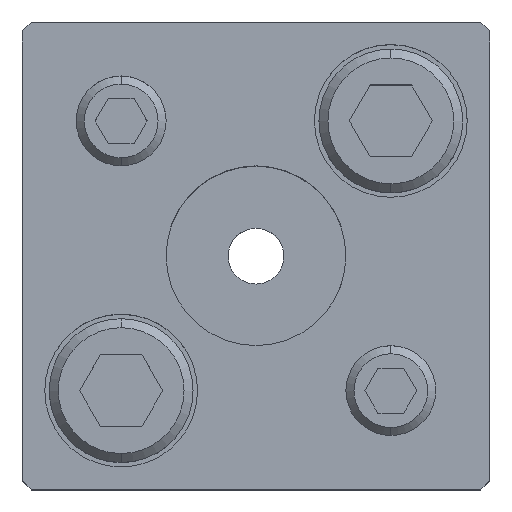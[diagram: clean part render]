
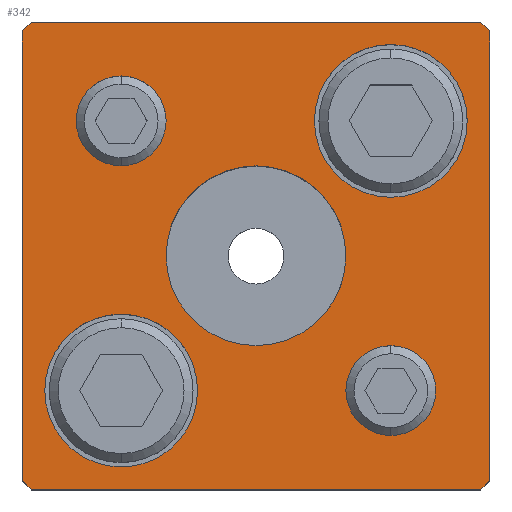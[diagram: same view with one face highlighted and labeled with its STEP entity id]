
A CAD part, top view. The second image highlights one B-rep face of the part: STEP entity #342.
In plain terms, the highlighted planar face has unit normal (0, 0, 1).
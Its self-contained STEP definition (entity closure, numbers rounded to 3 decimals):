
#167=PLANE('',#2883);
#246=FACE_BOUND('',#713,.T.);
#247=FACE_BOUND('',#714,.T.);
#248=FACE_BOUND('',#715,.T.);
#249=FACE_BOUND('',#716,.T.);
#250=FACE_BOUND('',#717,.T.);
#251=FACE_BOUND('',#718,.T.);
#342=ADVANCED_FACE('',(#246,#247,#248,#249,#250,#251),#167,.T.);
#713=EDGE_LOOP('',(#1569,#1570,#1571,#1572,#1573,#1574,#1575,#1576));
#714=EDGE_LOOP('',(#1577,#1578));
#715=EDGE_LOOP('',(#1579,#1580));
#716=EDGE_LOOP('',(#1581,#1582));
#717=EDGE_LOOP('',(#1583,#1584));
#718=EDGE_LOOP('',(#1585,#1586));
#898=LINE('',#4225,#1118);
#899=LINE('',#4228,#1119);
#900=LINE('',#4230,#1120);
#901=LINE('',#4232,#1121);
#902=LINE('',#4234,#1122);
#903=LINE('',#4236,#1123);
#904=LINE('',#4238,#1124);
#905=LINE('',#4240,#1125);
#1118=VECTOR('',#3401,1.);
#1119=VECTOR('',#3402,1.);
#1120=VECTOR('',#3403,1.);
#1121=VECTOR('',#3404,1.);
#1122=VECTOR('',#3405,1.);
#1123=VECTOR('',#3406,1.);
#1124=VECTOR('',#3407,1.);
#1125=VECTOR('',#3408,1.);
#1569=ORIENTED_EDGE('',*,*,#2390,.T.);
#1570=ORIENTED_EDGE('',*,*,#2391,.T.);
#1571=ORIENTED_EDGE('',*,*,#2392,.T.);
#1572=ORIENTED_EDGE('',*,*,#2393,.T.);
#1573=ORIENTED_EDGE('',*,*,#2394,.T.);
#1574=ORIENTED_EDGE('',*,*,#2395,.T.);
#1575=ORIENTED_EDGE('',*,*,#2396,.T.);
#1576=ORIENTED_EDGE('',*,*,#2397,.T.);
#1577=ORIENTED_EDGE('',*,*,#2398,.F.);
#1578=ORIENTED_EDGE('',*,*,#2399,.F.);
#1579=ORIENTED_EDGE('',*,*,#2400,.F.);
#1580=ORIENTED_EDGE('',*,*,#2401,.F.);
#1581=ORIENTED_EDGE('',*,*,#2376,.F.);
#1582=ORIENTED_EDGE('',*,*,#2372,.F.);
#1583=ORIENTED_EDGE('',*,*,#2370,.F.);
#1584=ORIENTED_EDGE('',*,*,#2366,.F.);
#1585=ORIENTED_EDGE('',*,*,#2402,.T.);
#1586=ORIENTED_EDGE('',*,*,#2403,.T.);
#2083=VERTEX_POINT('',#4176);
#2084=VERTEX_POINT('',#4177);
#2087=VERTEX_POINT('',#4189);
#2088=VERTEX_POINT('',#4190);
#2099=VERTEX_POINT('',#4226);
#2100=VERTEX_POINT('',#4227);
#2101=VERTEX_POINT('',#4229);
#2102=VERTEX_POINT('',#4231);
#2103=VERTEX_POINT('',#4233);
#2104=VERTEX_POINT('',#4235);
#2105=VERTEX_POINT('',#4237);
#2106=VERTEX_POINT('',#4239);
#2107=VERTEX_POINT('',#4242);
#2108=VERTEX_POINT('',#4243);
#2109=VERTEX_POINT('',#4246);
#2110=VERTEX_POINT('',#4247);
#2111=VERTEX_POINT('',#4250);
#2112=VERTEX_POINT('',#4251);
#2366=EDGE_CURVE('',#2083,#2084,#2655,.T.);
#2370=EDGE_CURVE('',#2084,#2083,#2657,.T.);
#2372=EDGE_CURVE('',#2087,#2088,#2659,.T.);
#2376=EDGE_CURVE('',#2088,#2087,#2661,.T.);
#2390=EDGE_CURVE('',#2099,#2100,#898,.T.);
#2391=EDGE_CURVE('',#2100,#2101,#899,.T.);
#2392=EDGE_CURVE('',#2101,#2102,#900,.T.);
#2393=EDGE_CURVE('',#2102,#2103,#901,.T.);
#2394=EDGE_CURVE('',#2103,#2104,#902,.T.);
#2395=EDGE_CURVE('',#2104,#2105,#903,.T.);
#2396=EDGE_CURVE('',#2105,#2106,#904,.T.);
#2397=EDGE_CURVE('',#2106,#2099,#905,.T.);
#2398=EDGE_CURVE('',#2107,#2108,#2671,.T.);
#2399=EDGE_CURVE('',#2108,#2107,#2672,.T.);
#2400=EDGE_CURVE('',#2109,#2110,#2673,.T.);
#2401=EDGE_CURVE('',#2110,#2109,#2674,.T.);
#2402=EDGE_CURVE('',#2111,#2112,#2675,.T.);
#2403=EDGE_CURVE('',#2112,#2111,#2676,.T.);
#2655=CIRCLE('',#2851,5.);
#2657=CIRCLE('',#2854,5.);
#2659=CIRCLE('',#2858,5.);
#2661=CIRCLE('',#2861,5.);
#2671=CIRCLE('',#2877,8.5);
#2672=CIRCLE('',#2878,8.5);
#2673=CIRCLE('',#2879,8.5);
#2674=CIRCLE('',#2880,8.5);
#2675=CIRCLE('',#2881,10.);
#2676=CIRCLE('',#2882,10.);
#2851=AXIS2_PLACEMENT_3D('',#4175,#3341,#3342);
#2854=AXIS2_PLACEMENT_3D('',#4184,#3349,#3350);
#2858=AXIS2_PLACEMENT_3D('',#4188,#3357,#3358);
#2861=AXIS2_PLACEMENT_3D('',#4197,#3365,#3366);
#2877=AXIS2_PLACEMENT_3D('',#4241,#3409,#3410);
#2878=AXIS2_PLACEMENT_3D('',#4244,#3411,#3412);
#2879=AXIS2_PLACEMENT_3D('',#4245,#3413,#3414);
#2880=AXIS2_PLACEMENT_3D('',#4248,#3415,#3416);
#2881=AXIS2_PLACEMENT_3D('',#4249,#3417,#3418);
#2882=AXIS2_PLACEMENT_3D('',#4252,#3419,#3420);
#2883=AXIS2_PLACEMENT_3D('',#4253,#3421,#3422);
#3341=DIRECTION('',(0.,0.,1.));
#3342=DIRECTION('',(-1.,0.,0.));
#3349=DIRECTION('',(0.,0.,1.));
#3350=DIRECTION('',(1.,0.,0.));
#3357=DIRECTION('',(0.,0.,1.));
#3358=DIRECTION('',(-1.,0.,0.));
#3365=DIRECTION('',(0.,0.,1.));
#3366=DIRECTION('',(1.,0.,0.));
#3401=DIRECTION('',(0.707,0.707,0.));
#3402=DIRECTION('',(0.,1.,0.));
#3403=DIRECTION('',(-0.707,0.707,0.));
#3404=DIRECTION('',(-1.,0.,0.));
#3405=DIRECTION('',(-0.707,-0.707,0.));
#3406=DIRECTION('',(0.,-1.,0.));
#3407=DIRECTION('',(0.707,-0.707,0.));
#3408=DIRECTION('',(1.,0.,0.));
#3409=DIRECTION('',(0.,0.,1.));
#3410=DIRECTION('',(1.,0.,0.));
#3411=DIRECTION('',(0.,0.,1.));
#3412=DIRECTION('',(-1.,0.,0.));
#3413=DIRECTION('',(0.,0.,1.));
#3414=DIRECTION('',(1.,0.,0.));
#3415=DIRECTION('',(0.,0.,1.));
#3416=DIRECTION('',(-1.,0.,0.));
#3417=DIRECTION('',(0.,0.,-1.));
#3418=DIRECTION('',(-1.,0.,0.));
#3419=DIRECTION('',(0.,0.,-1.));
#3420=DIRECTION('',(1.,0.,0.));
#3421=DIRECTION('',(0.,0.,1.));
#3422=DIRECTION('',(-1.,0.,0.));
#4175=CARTESIAN_POINT('',(15.,-15.,35.));
#4176=CARTESIAN_POINT('',(15.,-20.,35.));
#4177=CARTESIAN_POINT('',(15.,-10.,35.));
#4184=CARTESIAN_POINT('',(15.,-15.,35.));
#4188=CARTESIAN_POINT('',(-15.,15.,35.));
#4189=CARTESIAN_POINT('',(-15.,10.,35.));
#4190=CARTESIAN_POINT('',(-15.,20.,35.));
#4197=CARTESIAN_POINT('',(-15.,15.,35.));
#4225=CARTESIAN_POINT('',(25.,-26.,35.));
#4226=CARTESIAN_POINT('',(25.,-26.,35.));
#4227=CARTESIAN_POINT('',(26.,-25.,35.));
#4228=CARTESIAN_POINT('',(26.,25.,35.));
#4229=CARTESIAN_POINT('',(26.,25.,35.));
#4230=CARTESIAN_POINT('',(26.,25.,35.));
#4231=CARTESIAN_POINT('',(25.,26.,35.));
#4232=CARTESIAN_POINT('',(-25.,26.,35.));
#4233=CARTESIAN_POINT('',(-25.,26.,35.));
#4234=CARTESIAN_POINT('',(-25.,26.,35.));
#4235=CARTESIAN_POINT('',(-26.,25.,35.));
#4236=CARTESIAN_POINT('',(-26.,25.,35.));
#4237=CARTESIAN_POINT('',(-26.,-25.,35.));
#4238=CARTESIAN_POINT('',(-26.,-25.,35.));
#4239=CARTESIAN_POINT('',(-25.,-26.,35.));
#4240=CARTESIAN_POINT('',(-25.,-26.,35.));
#4241=CARTESIAN_POINT('',(15.,15.,35.));
#4242=CARTESIAN_POINT('',(15.,23.5,35.));
#4243=CARTESIAN_POINT('',(15.,6.5,35.));
#4244=CARTESIAN_POINT('',(15.,15.,35.));
#4245=CARTESIAN_POINT('',(-15.,-15.,35.));
#4246=CARTESIAN_POINT('',(-15.,-6.5,35.));
#4247=CARTESIAN_POINT('',(-15.,-23.5,35.));
#4248=CARTESIAN_POINT('',(-15.,-15.,35.));
#4249=CARTESIAN_POINT('',(0.,0.,35.));
#4250=CARTESIAN_POINT('',(0.,10.,35.));
#4251=CARTESIAN_POINT('',(0.,-10.,35.));
#4252=CARTESIAN_POINT('',(0.,0.,35.));
#4253=CARTESIAN_POINT('',(25.,-26.,35.));
